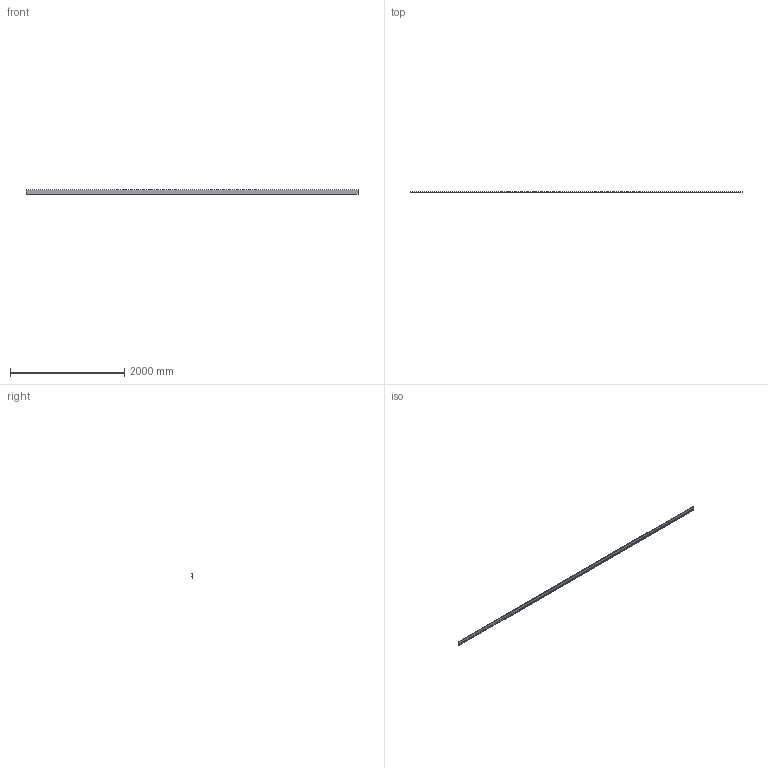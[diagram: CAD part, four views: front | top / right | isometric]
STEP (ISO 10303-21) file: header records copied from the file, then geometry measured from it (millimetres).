
FILE_DESCRIPTION(('STEP AP242'),'1');
FILE_NAME('OPO_65.083.34.stp','2026-03-17T13:42:02',(' '),(' '),'Spatial InterOp 3D',' ',' ');
FILE_SCHEMA(('AP242_MANAGED_MODEL_BASED_3D_ENGINEERING_MIM_LF {1 0 10303 442 1 1 4}'));
Length unit declared in the file: millimetre
Products named in the file (1): 1
Bounding box: 5800 x 11.5 x 79.5 mm (x, y, z)
Volume: 649600 mm3; surface area: 1311024 mm2
Topology: 1 solids, 1 shells, 68 faces, 184 edges, 122 vertices
Faces by surface type: plane 48, cylinder 20
Entity records: 2692 total; most frequent: CARTESIAN_POINT 375, ORIENTED_EDGE 368, DIRECTION 362, EDGE_CURVE 184, LINE 144, VECTOR 144, VERTEX_POINT 122, AXIS2_PLACEMENT_3D 109
